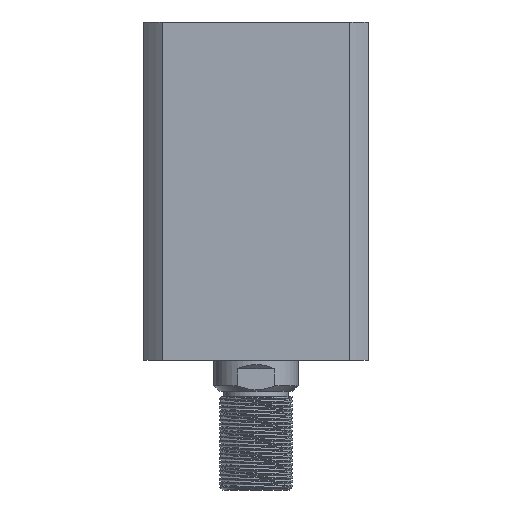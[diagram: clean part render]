
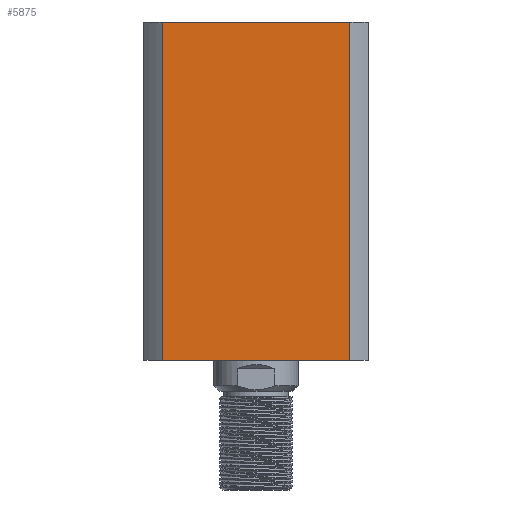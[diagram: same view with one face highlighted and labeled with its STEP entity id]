
A CAD part, left-side view. The second image highlights one B-rep face of the part: STEP entity #5875.
In plain terms, the highlighted planar face has unit normal (-1, 0, 0).
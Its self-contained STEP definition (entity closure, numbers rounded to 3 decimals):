
#513 = VECTOR ( 'NONE', #2627, 1000. ) ;
#1036 = CARTESIAN_POINT ( 'NONE',  ( -40., 33.226, 60. ) ) ;
#1172 = CARTESIAN_POINT ( 'NONE',  ( -40., 33.226, 60. ) ) ;
#1884 = VERTEX_POINT ( 'NONE', #10928 ) ;
#2322 = EDGE_LOOP ( 'NONE', ( #7319, #7683, #17137, #12745 ) ) ;
#2503 = LINE ( 'NONE', #8899, #17208 ) ;
#2627 = DIRECTION ( 'NONE',  ( 0., -1., 0. ) ) ;
#3315 = VERTEX_POINT ( 'NONE', #11263 ) ;
#4436 = EDGE_CURVE ( 'NONE', #3315, #1884, #6554, .T. ) ;
#4521 = LINE ( 'NONE', #16045, #5392 ) ;
#5392 = VECTOR ( 'NONE', #6499, 1000. ) ;
#5875 = ADVANCED_FACE ( 'NONE', ( #13504 ), #14937, .F. ) ;
#6166 = EDGE_CURVE ( 'NONE', #1884, #10443, #2503, .T. ) ;
#6442 = CARTESIAN_POINT ( 'NONE',  ( -40., -33.226, -60. ) ) ;
#6499 = DIRECTION ( 'NONE',  ( 0., 0., -1. ) ) ;
#6554 = LINE ( 'NONE', #10562, #17770 ) ;
#7319 = ORIENTED_EDGE ( 'NONE', *, *, #6166, .T. ) ;
#7683 = ORIENTED_EDGE ( 'NONE', *, *, #17860, .F. ) ;
#7764 = DIRECTION ( 'NONE',  ( 0., 0., -1. ) ) ;
#8105 = EDGE_CURVE ( 'NONE', #3315, #13772, #10490, .T. ) ;
#8899 = CARTESIAN_POINT ( 'NONE',  ( -40., 33.226, -60. ) ) ;
#9336 = DIRECTION ( 'NONE',  ( 1., 0., 0. ) ) ;
#9494 = CARTESIAN_POINT ( 'NONE',  ( -40., -33.226, 60. ) ) ;
#10443 = VERTEX_POINT ( 'NONE', #6442 ) ;
#10490 = LINE ( 'NONE', #1036, #513 ) ;
#10498 = AXIS2_PLACEMENT_3D ( 'NONE', #1172, #9336, #16285 ) ;
#10562 = CARTESIAN_POINT ( 'NONE',  ( -40., 33.226, 60. ) ) ;
#10928 = CARTESIAN_POINT ( 'NONE',  ( -40., 33.226, -60. ) ) ;
#11263 = CARTESIAN_POINT ( 'NONE',  ( -40., 33.226, 60. ) ) ;
#12745 = ORIENTED_EDGE ( 'NONE', *, *, #4436, .T. ) ;
#13504 = FACE_OUTER_BOUND ( 'NONE', #2322, .T. ) ;
#13772 = VERTEX_POINT ( 'NONE', #9494 ) ;
#14937 = PLANE ( 'NONE',  #10498 ) ;
#15846 = DIRECTION ( 'NONE',  ( 0., -1., 0. ) ) ;
#16045 = CARTESIAN_POINT ( 'NONE',  ( -40., -33.226, 60. ) ) ;
#16285 = DIRECTION ( 'NONE',  ( 0., 1., 0. ) ) ;
#17137 = ORIENTED_EDGE ( 'NONE', *, *, #8105, .F. ) ;
#17208 = VECTOR ( 'NONE', #15846, 1000. ) ;
#17770 = VECTOR ( 'NONE', #7764, 1000. ) ;
#17860 = EDGE_CURVE ( 'NONE', #13772, #10443, #4521, .T. ) ;
